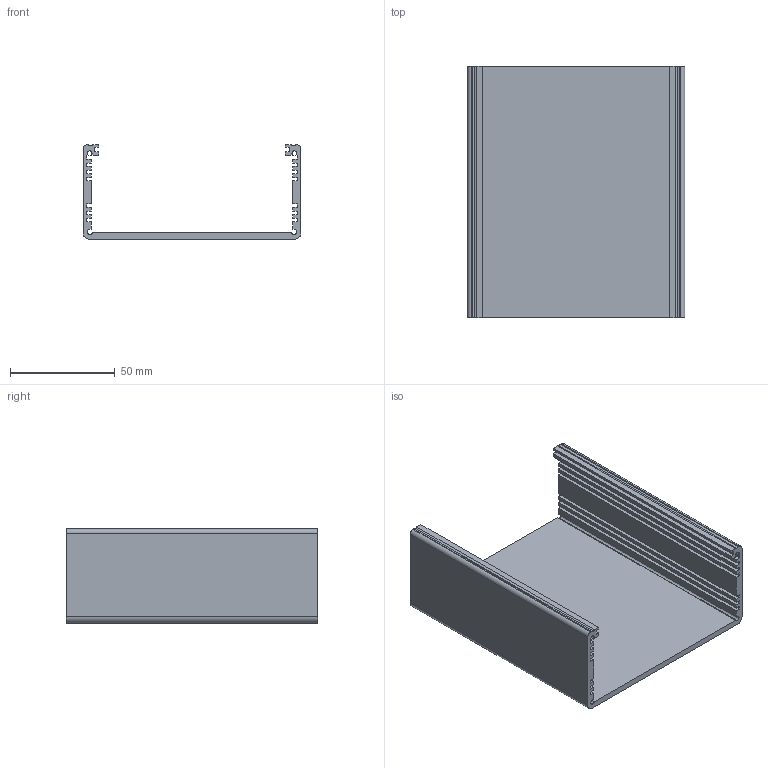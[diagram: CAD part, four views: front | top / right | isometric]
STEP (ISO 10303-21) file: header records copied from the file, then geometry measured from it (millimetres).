
FILE_DESCRIPTION (( 'STEP AP214' ), '1' );
FILE_NAME ('SG3400.STEP', '2018-01-25T11:37:58', ( '' ), ( '' ), 'SwSTEP 2.0', 'SolidWorks 2018', '' );
FILE_SCHEMA (( 'AUTOMOTIVE_DESIGN' ));
Length unit declared in the file: millimetre
Products named in the file (1): SG3400
Bounding box: 104 x 120 x 45 mm (x, y, z)
Volume: 72014.6 mm3; surface area: 58639.9 mm2
Topology: 1 solids, 1 shells, 94 faces, 276 edges, 184 vertices
Faces by surface type: plane 80, cylinder 14
Entity records: 3122 total; most frequent: CARTESIAN_POINT 555, ORIENTED_EDGE 552, DIRECTION 494, EDGE_CURVE 276, VECTOR 248, LINE 248, VERTEX_POINT 184, AXIS2_PLACEMENT_3D 123
